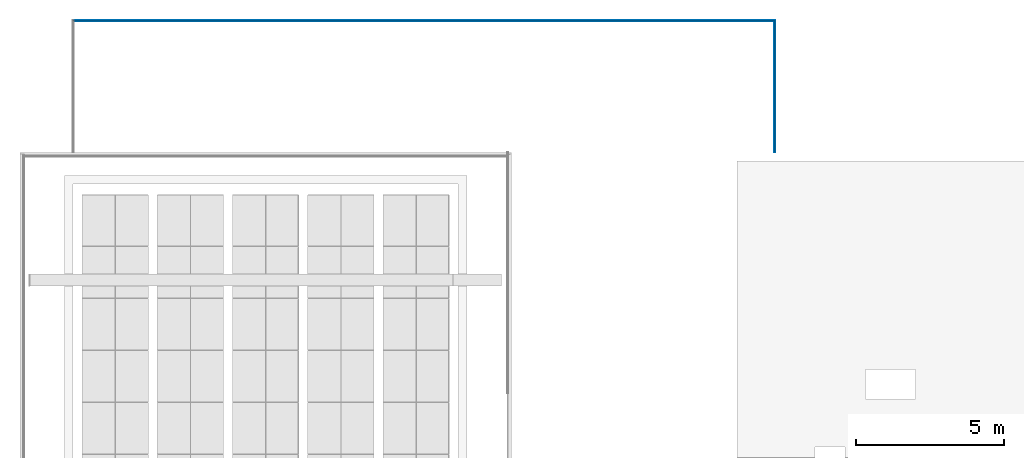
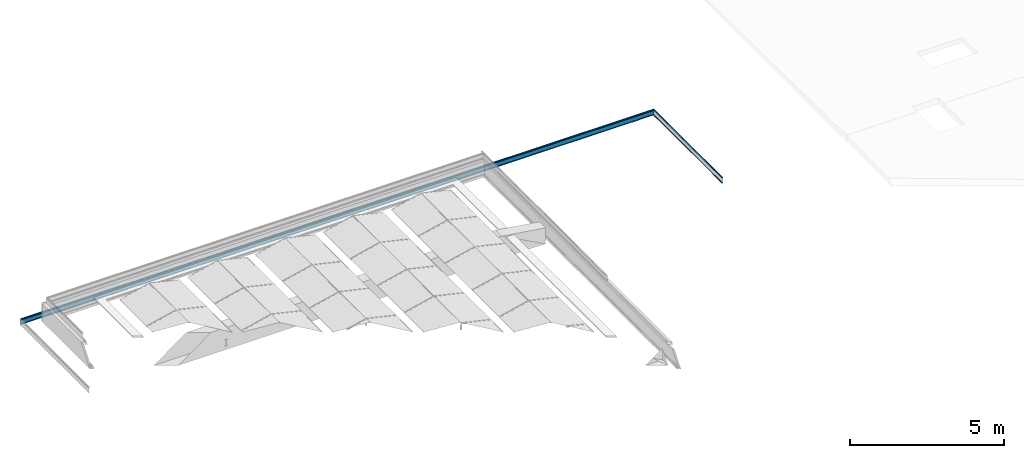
# One storey, part 13 of 25: 5 building element parts, 2 elements without a shape of their own.
"""IFC2X3 building model written with IfcOpenShell, lengths in millimetres."""

from ifc_helpers import new_model, entity, si_unit, converted_unit, derived_unit, money_unit, direction, frame, origin_with_axes, place, context, subcontext, project, spatial, faceted_brep, material, type_object, element, aggregate, save


model = new_model("IFC2X3")

# Units and contexts
model_context = context("Model", 3, precision=0.01, world=origin_with_axes(), true_north=direction((0.0, 1.0)))
body_context = subcontext(model_context, "Body", "Model", "MODEL_VIEW")
ifc_project = project(units=[si_unit("LENGTHUNIT", "METRE", prefix="MILLI"), si_unit("AREAUNIT", "SQUARE_METRE"), si_unit("VOLUMEUNIT", "CUBIC_METRE"), converted_unit("PLANEANGLEUNIT", "DEGREE", entity("IfcPlaneAngleMeasure", 0.0174532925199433), si_unit("PLANEANGLEUNIT", "RADIAN"), dimensions=[0, 0, 0, 0, 0, 0, 0]), money_unit("EUR"), converted_unit("TIMEUNIT", "Year", entity("IfcTimeMeasure", 31557600.0), si_unit("TIMEUNIT", "SECOND"), dimensions=[0, 0, 1, 0, 0, 0, 0]), si_unit("MASSUNIT", "GRAM", prefix="KILO"), si_unit("THERMODYNAMICTEMPERATUREUNIT", "DEGREE_CELSIUS"), si_unit("LUMINOUSINTENSITYUNIT", "LUMEN"), si_unit("ENERGYUNIT", "JOULE", prefix="MEGA"), derived_unit("THERMALCONDUCTANCEUNIT", [(si_unit("POWERUNIT", "WATT"), 1), (si_unit("LENGTHUNIT", "METRE"), -1), (si_unit("THERMODYNAMICTEMPERATUREUNIT", "KELVIN"), -1)]), derived_unit("SPECIFICHEATCAPACITYUNIT", [(si_unit("ENERGYUNIT", "JOULE"), 1), (si_unit("MASSUNIT", "GRAM", prefix="KILO"), -1), (si_unit("THERMODYNAMICTEMPERATUREUNIT", "KELVIN"), -1)]), derived_unit("MASSDENSITYUNIT", [(si_unit("MASSUNIT", "GRAM", prefix="KILO"), 1), (si_unit("VOLUMEUNIT", "CUBIC_METRE"), -1)])], contexts=[model_context])

# Site, building, storey
site_placement = place(None, origin_with_axes())
site = spatial("IfcSite", under=ifc_project, at=site_placement, Name="<site naam>", CompositionType="ELEMENT")
building_placement = place(site_placement, origin_with_axes())
building = spatial("IfcBuilding", under=site, at=building_placement, Name="<Naam gebouw>", CompositionType="ELEMENT")
storey_placement = place(building_placement, frame((0.0, 0.0, 9563.0), z_axis=(0.0, 0.0, 1.0), x_axis=(1.0, 0.0, 0.0)))
storey = spatial("IfcBuildingStorey", under=building, at=storey_placement, Name="03 3e tussenverdieping", CompositionType="ELEMENT", Elevation=9563.0)

# Beam, building element parts
beam_type = type_object("IfcBeamType", Name="Aluminium daktrim 45 x 250", PredefinedType="BEAM")
beam_1_placement = place(storey_placement, frame((13384.93727836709, 20324.99999758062, -5292.062679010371), z_axis=(0.0, 0.0, 1.0), x_axis=(1.0, 0.0, 0.0)))
beam_1 = element("IfcBeam", 1, at=beam_1_placement, inside=storey, type_object=beam_type, Name="47_Balk_Aluminium", ObjectType="BEAM")
ifc_material = material(Name="aluminium")
building_element_part_1_placement = place(beam_1_placement, origin_with_axes())
building_element_part_1 = element("IfcBuildingElementPart", 2, at=building_element_part_1_placement, material=ifc_material, Name="aluminium", context=body_context, shape_type="Brep", body=[
    faceted_brep([(-121.4991945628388, 4478.497355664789, 294.0656451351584), (-122.2068758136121, 4477.789674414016, 293.7721760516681), (-122.2068758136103, 0.0, 293.7721760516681), (-121.4991945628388, 0.0, 294.0656451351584), (-110.9991946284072, 4488.997355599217, 294.0656451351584), (-110.2920878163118, 4489.704462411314, 293.7727519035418), (-109.9991945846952, 4489.997355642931, 293.0656450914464), (-109.9991945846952, 4489.997355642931, 250.065645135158), (-110.2920878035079, 4489.704462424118, 249.3585383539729), (-110.9991945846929, 4488.997355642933, 249.0656451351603), (-111.4991731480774, 4488.497377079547, 249.1996073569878), (-117.6977781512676, 4482.298772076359, 252.7781690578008), (-117.9774779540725, 4482.019072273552, 253.142634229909), (-117.917573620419, 4482.078976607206, 253.598132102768), (-117.5531500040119, 4482.443400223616, 253.8778860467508), (-117.0976432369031, 4482.898906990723, 253.8180493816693), (-113.8976320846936, 4486.098918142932, 251.9718951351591), (-113.8976320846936, 4486.098918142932, 252.5656451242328), (-113.7511854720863, 4486.245364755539, 252.9191985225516), (-113.3976320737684, 4486.59891815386, 253.0656451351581), (-113.1984133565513, 4486.798136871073, 253.0656451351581), (-112.8448599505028, 4487.151690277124, 252.9191985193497), (-112.6984133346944, 4487.298136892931, 252.5656451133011), (-112.6984133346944, 4487.298136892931, 251.2785357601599), (-111.9489165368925, 4488.047633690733, 250.8452329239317), (-111.6116899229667, 4488.384860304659, 250.7856033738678), (-111.3150643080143, 4488.681485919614, 250.9567486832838), (-111.1979101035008, 4488.798640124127, 251.2785442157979), (-111.1984133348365, 4488.798136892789, 281.0656535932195), (-111.3448629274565, 4488.651687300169, 281.4192015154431), (-111.6984133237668, 4488.298136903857, 281.5656451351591), (-112.1984133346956, 4487.79813689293, 281.5656451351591), (-112.5519667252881, 4487.444583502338, 281.4191985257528), (-112.6984133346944, 4487.298136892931, 281.0656451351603), (-112.6984133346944, 4487.298136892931, 279.565645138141), (-112.8448599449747, 4487.151690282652, 279.2120917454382), (-113.1984133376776, 4486.798136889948, 279.0656451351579), (-114.9718508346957, 4485.02469939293, 279.0656451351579), (-120.1773366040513, 4479.819213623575, 275.7461395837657), (-120.3116945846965, 4479.68485564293, 275.4250201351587), (-120.5695070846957, 4479.42704314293, 275.3156451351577), (-120.889819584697, 4479.10673064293, 275.4484576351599), (-121.5401955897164, 4478.456354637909, 275.2060759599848), (-121.694507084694, 4478.302043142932, 274.8976763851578), (-121.9640383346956, 4478.03251189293, 274.8078326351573), (-122.2726320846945, 4477.723918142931, 274.9640826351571), (-128.1981216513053, 4471.79842857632, 274.0660308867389), (-154.6486035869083, 4445.34794664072, 274.0656451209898), (-154.8951277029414, 4445.101422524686, 274.1677553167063), (-154.9972414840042, 4444.999308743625, 274.4142779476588), (-154.8947842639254, 4445.101765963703, 274.6611444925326), (-154.6476320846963, 4445.348918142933, 274.7629107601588), (-149.9991945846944, 4449.997355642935, 275.264863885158), (-149.698413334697, 4450.298136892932, 275.5656451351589), (-147.2999758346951, 4452.696574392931, 275.5656451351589), (-146.9991945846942, 4452.997355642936, 275.264863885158), (-143.9991945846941, 4455.997355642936, 275.264863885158), (-143.6984133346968, 4456.298136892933, 275.5656451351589), (-141.2999758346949, 4458.696574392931, 275.5656451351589), (-140.9991945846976, 4458.997355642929, 275.264863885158), (-137.9991945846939, 4461.997355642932, 275.264863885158), (-137.6984133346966, 4462.29813689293, 275.5656451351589), (-135.2999758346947, 4464.696574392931, 275.5656451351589), (-134.9991945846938, 4464.997355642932, 275.264863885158), (-131.9991945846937, 4467.997355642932, 275.264863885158), (-131.6984133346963, 4468.29813689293, 275.5656451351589), (-129.2999758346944, 4470.696574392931, 275.5656451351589), (-128.9991945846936, 4470.997355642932, 275.264863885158), (-128.1984107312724, 4471.798139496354, 275.264863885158), (-120.0158638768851, 4479.980686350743, 277.1388822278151), (-113.4645529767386, 4486.531997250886, 282.3873432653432), (-112.6841977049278, 4487.3123525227, 282.7641787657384), (-112.1970030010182, 4487.799547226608, 282.7648658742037), (-111.490808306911, 4488.505741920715, 283.0582564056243), (-111.1984133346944, 4488.798136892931, 283.7648638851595), (-111.1984133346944, 4488.798136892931, 292.3664263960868), (-111.3448599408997, 4488.651690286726, 292.719979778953), (-111.6984133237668, 4488.298136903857, 292.8664263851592), (-120.7999758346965, 4479.19657439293, 292.8664263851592), (-121.153529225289, 4478.843021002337, 292.7199797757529), (-121.2999758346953, 4478.69657439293, 292.3664263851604), (-121.2999758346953, 4478.69657439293, 290.6652544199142), (-121.4748532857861, 4478.52169694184, 290.2428198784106), (-121.8971453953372, 4478.099404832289, 290.0675987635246), (-122.3197220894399, 4477.676828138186, 290.2421324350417), (-122.4952867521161, 4477.50126347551, 290.6642818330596), (-122.4991919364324, 4477.497358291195, 293.0640177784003), (-122.4991919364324, 0.0, 293.0640177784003), (-122.4952867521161, 0.0, 290.6642818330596), (-122.3197220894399, 0.0, 290.2421324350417), (-121.8971453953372, 0.0, 290.0675987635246), (-121.4748532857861, 0.0, 290.2428198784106), (-121.2999758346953, 0.0, 290.6652544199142), (-121.2999758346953, 0.0, 292.3664263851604), (-121.153529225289, 0.0, 292.7199797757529), (-120.7999758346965, 0.0, 292.8664263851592), (-111.6984133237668, 0.0, 292.8664263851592), (-111.3448599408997, 0.0, 292.719979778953), (-111.1984133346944, 0.0, 292.3664263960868), (-111.1984133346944, 0.0, 283.7648638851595), (-111.490808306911, 0.0, 283.0582564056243), (-112.1970030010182, 0.0, 282.7648658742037), (-112.6841977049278, 0.0, 282.7641787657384), (-113.4645529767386, 0.0, 282.3873432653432), (-120.0158638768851, 0.0, 277.1388822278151), (-128.1984107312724, 0.0, 275.264863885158), (-128.9991945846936, 0.0, 275.264863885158), (-129.2999758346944, 0.0, 275.5656451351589), (-131.6984133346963, 0.0, 275.5656451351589), (-131.9991945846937, 0.0, 275.264863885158), (-134.9991945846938, 0.0, 275.264863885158), (-135.2999758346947, 0.0, 275.5656451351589), (-137.6984133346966, 0.0, 275.5656451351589), (-137.9991945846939, 0.0, 275.264863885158), (-140.9991945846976, 0.0, 275.264863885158), (-141.2999758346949, 0.0, 275.5656451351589), (-143.6984133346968, 0.0, 275.5656451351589), (-143.9991945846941, 0.0, 275.264863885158), (-146.9991945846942, 0.0, 275.264863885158), (-147.2999758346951, 0.0, 275.5656451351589), (-149.698413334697, 0.0, 275.5656451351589), (-149.9991945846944, 0.0, 275.264863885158), (-154.6476320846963, 0.0, 274.7629107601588), (-154.8947842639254, 0.0, 274.6611444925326), (-154.9972414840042, 0.0, 274.4142779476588), (-154.8951277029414, 0.0, 274.1677553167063), (-154.6486035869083, 0.0, 274.0656451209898), (-128.1981216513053, 0.0, 274.0660308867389), (-122.2726320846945, 0.0, 274.9640826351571), (-121.9640383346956, 0.0, 274.8078326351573), (-121.694507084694, 0.0, 274.8976763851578), (-121.5401955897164, 0.0, 275.2060759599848), (-120.889819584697, 0.0, 275.4484576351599), (-120.5695070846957, 0.0, 275.3156451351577), (-120.3116945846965, 0.0, 275.4250201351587), (-120.1773366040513, 0.0, 275.7461395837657), (-114.9718508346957, 0.0, 279.0656451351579), (-113.1984133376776, 0.0, 279.0656451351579), (-112.8448599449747, 0.0, 279.2120917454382), (-112.6984133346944, 0.0, 279.565645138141), (-112.6984133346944, 0.0, 281.0656451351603), (-112.5519667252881, 0.0, 281.4191985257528), (-112.1984133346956, 0.0, 281.5656451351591), (-111.6984133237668, 0.0, 281.5656451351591), (-111.3448629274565, 0.0, 281.4192015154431), (-111.1984133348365, 0.0, 281.0656535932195), (-111.1979101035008, 0.0, 251.2785442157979), (-111.3150643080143, 0.0, 250.9567486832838), (-111.6116899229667, 0.0, 250.7856033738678), (-111.9489165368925, 0.0, 250.8452329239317), (-112.6984133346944, 0.0, 251.2785357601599), (-112.6984133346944, 0.0, 252.5656451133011), (-112.8448599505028, 0.0, 252.9191985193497), (-113.1984133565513, 0.0, 253.0656451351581), (-113.3976320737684, 0.0, 253.0656451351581), (-113.7511854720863, 0.0, 252.9191985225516), (-113.8976320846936, 0.0, 252.5656451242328), (-113.8976320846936, 0.0, 251.9718951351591), (-117.0976432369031, 0.0, 253.8180493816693), (-117.5531500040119, 0.0, 253.8778860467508), (-117.917573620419, 0.0, 253.598132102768), (-117.9774779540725, 0.0, 253.142634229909), (-117.6977781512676, 0.0, 252.7781690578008), (-111.4991731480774, 0.0, 249.1996073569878), (-110.9991945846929, 0.0, 249.0656451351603), (-110.2920878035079, 0.0, 249.3585383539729), (-109.9991945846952, 0.0, 250.065645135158), (-109.9991945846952, 0.0, 293.0656450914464), (-110.2920878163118, 0.0, 293.7727519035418), (-110.9991946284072, 0.0, 294.0656451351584)], [[[0, 1, 2, 3]], [[0, 4, 5, 6, 7, 8, 9, 10, 11, 12, 13, 14, 15, 16, 17, 18, 19, 20, 21, 22, 23, 24, 25, 26, 27, 28, 29, 30, 31, 32, 33, 34, 35, 36, 37, 38, 39, 40, 41, 42, 43, 44, 45, 46, 47, 48, 49, 50, 51, 52, 53, 54, 55, 56, 57, 58, 59, 60, 61, 62, 63, 64, 65, 66, 67, 68, 69, 70, 71, 72, 73, 74, 75, 76, 77, 78, 79, 80, 81, 82, 83, 84, 85, 86, 1]], [[1, 86, 87, 2]], [[3, 2, 87, 88, 89, 90, 91, 92, 93, 94, 95, 96, 97, 98, 99, 100, 101, 102, 103, 104, 105, 106, 107, 108, 109, 110, 111, 112, 113, 114, 115, 116, 117, 118, 119, 120, 121, 122, 123, 124, 125, 126, 127, 128, 129, 130, 131, 132, 133, 134, 135, 136, 137, 138, 139, 140, 141, 142, 143, 144, 145, 146, 147, 148, 149, 150, 151, 152, 153, 154, 155, 156, 157, 158, 159, 160, 161, 162, 163, 164, 165, 166, 167, 168, 169]], [[4, 0, 3, 169]], [[5, 4, 169, 168]], [[6, 5, 168, 167]], [[7, 6, 167, 166]], [[8, 7, 166, 165]], [[9, 8, 165, 164]], [[10, 9, 164, 163]], [[11, 10, 163, 162]], [[12, 11, 162, 161]], [[13, 12, 161, 160]], [[14, 13, 160, 159]], [[15, 14, 159, 158]], [[16, 15, 158, 157]], [[17, 16, 157, 156]], [[18, 17, 156, 155]], [[19, 18, 155, 154]], [[20, 19, 154, 153]], [[21, 20, 153, 152]], [[22, 21, 152, 151]], [[23, 22, 151, 150]], [[24, 23, 150, 149]], [[25, 24, 149, 148]], [[26, 25, 148, 147]], [[27, 26, 147, 146]], [[28, 27, 146, 145]], [[29, 28, 145, 144]], [[30, 29, 144, 143]], [[31, 30, 143, 142]], [[32, 31, 142, 141]], [[33, 32, 141, 140]], [[34, 33, 140, 139]], [[35, 34, 139, 138]], [[36, 35, 138, 137]], [[37, 36, 137, 136]], [[38, 37, 136, 135]], [[39, 38, 135, 134]], [[40, 39, 134, 133]], [[41, 40, 133, 132]], [[42, 41, 132, 131]], [[43, 42, 131, 130]], [[44, 43, 130, 129]], [[45, 44, 129, 128]], [[46, 45, 128, 127]], [[47, 46, 127, 126]], [[48, 47, 126, 125]], [[49, 48, 125, 124]], [[50, 49, 124, 123]], [[51, 50, 123, 122]], [[52, 51, 122, 121]], [[53, 52, 121, 120]], [[54, 53, 120, 119]], [[55, 54, 119, 118]], [[56, 55, 118, 117]], [[57, 56, 117, 116]], [[58, 57, 116, 115]], [[59, 58, 115, 114]], [[60, 59, 114, 113]], [[61, 60, 113, 112]], [[62, 61, 112, 111]], [[63, 62, 111, 110]], [[64, 63, 110, 109]], [[65, 64, 109, 108]], [[66, 65, 108, 107]], [[67, 66, 107, 106]], [[68, 67, 106, 105]], [[69, 68, 105, 104]], [[70, 69, 104, 103]], [[71, 70, 103, 102]], [[72, 71, 102, 101]], [[73, 72, 101, 100]], [[74, 73, 100, 99]], [[75, 74, 99, 98]], [[76, 75, 98, 97]], [[77, 76, 97, 96]], [[78, 77, 96, 95]], [[79, 78, 95, 94]], [[80, 79, 94, 93]], [[81, 80, 93, 92]], [[82, 81, 92, 91]], [[83, 82, 91, 90]], [[84, 83, 90, 89]], [[85, 84, 89, 88]], [[86, 85, 88, 87]]]),
])
building_element_part_2_placement = place(beam_1_placement, origin_with_axes())
building_element_part_2 = element("IfcBuildingElementPart", 3, at=building_element_part_2_placement, material=ifc_material, Name="aluminium", context=body_context, shape_type="Brep", body=[
    faceted_brep([(-112.0058939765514, 4487.990656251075, 49.5656303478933), (-112.0058939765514, 4487.990656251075, 69.56564503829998), (-112.0058939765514, 0.0, 69.56564503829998), (-112.0058939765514, 0.0, 49.5656303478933), (-113.2058874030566, 4486.790662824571, 49.5656303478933), (-113.2058874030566, 4486.790662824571, 68.55872432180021), (-145.0058874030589, 4454.990662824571, 74.16592230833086), (-145.0058874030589, 4454.990662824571, 89.56564503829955), (-143.8058874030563, 4456.190662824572, 89.56564503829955), (-143.8058874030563, 4456.190662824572, 75.17284186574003), (-143.8058874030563, 0.0, 75.17284186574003), (-143.8058874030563, 0.0, 89.56564503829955), (-145.0058874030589, 0.0, 89.56564503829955), (-145.0058874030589, 0.0, 74.16592230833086), (-113.2058874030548, 0.0, 68.55872432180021), (-113.2058874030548, 0.0, 49.5656303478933)], [[[0, 1, 2, 3]], [[0, 4, 5, 6, 7, 8, 9, 1]], [[1, 9, 10, 2]], [[3, 2, 10, 11, 12, 13, 14, 15]], [[4, 0, 3, 15]], [[5, 4, 15, 14]], [[6, 5, 14, 13]], [[7, 6, 13, 12]], [[8, 7, 12, 11]], [[9, 8, 11, 10]]]),
])
aggregate(beam_1, [building_element_part_1, building_element_part_2])

beam_2_placement = place(storey_placement, frame((13384.93727836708, 24924.99654780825, -5292.000000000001), z_axis=(0.0, 0.0, 1.0), x_axis=(0.0, 1.0, 0.0)))
beam_2 = element("IfcBeam", 4, at=beam_2_placement, inside=storey, type_object=beam_type, Name="47_Balk_Aluminium", ObjectType="BEAM")
building_element_part_3_placement = place(beam_2_placement, origin_with_axes())
building_element_part_3 = element("IfcBuildingElementPart", 5, at=building_element_part_3_placement, material=ifc_material, Name="aluminium", context=body_context, shape_type="Brep", body=[
    faceted_brep([(-121.499194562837, 23917.51345279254, 294.0656451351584), (-122.2068758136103, 23916.80577154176, 293.7721760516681), (-122.2068758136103, 122.2068758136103, 293.7721760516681), (-121.499194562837, 121.4991945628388, 294.0656451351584), (-110.9991946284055, 23928.01345272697, 294.0656451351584), (-110.2920878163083, 23928.72055953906, 293.7727519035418), (-109.9991945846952, 23929.01345277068, 293.0656450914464), (-109.9991945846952, 23929.01345277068, 250.065645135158), (-110.2920878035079, 23928.72055955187, 249.3585383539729), (-110.9991945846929, 23928.01345277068, 249.0656451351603), (-111.4991731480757, 23927.5134742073, 249.1996073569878), (-117.6977781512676, 23921.31486920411, 252.7781690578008), (-117.9774779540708, 23921.0351694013, 253.142634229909), (-117.9175736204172, 23921.09507373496, 253.598132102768), (-117.5531500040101, 23921.45949735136, 253.8778860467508), (-117.0976432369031, 23921.91500411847, 253.8180493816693), (-113.8976320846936, 23925.11501527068, 251.9718951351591), (-113.8976320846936, 23925.11501527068, 252.5656451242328), (-113.7511854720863, 23925.26146188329, 252.9191985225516), (-113.3976320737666, 23925.61501528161, 253.0656451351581), (-113.1984133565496, 23925.81423399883, 253.0656451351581), (-112.8448599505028, 23926.16778740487, 252.9191985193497), (-112.6984133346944, 23926.31423402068, 252.5656451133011), (-112.6984133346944, 23926.31423402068, 251.2785357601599), (-111.9489165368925, 23927.06373081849, 250.8452329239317), (-111.6116899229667, 23927.40095743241, 250.7856033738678), (-111.3150643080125, 23927.69758304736, 250.9567486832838), (-111.197910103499, 23927.81473725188, 251.2785442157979), (-111.1984133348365, 23927.81423402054, 281.0656535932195), (-111.3448629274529, 23927.66778442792, 281.4192015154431), (-111.6984133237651, 23927.3142340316, 281.5656451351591), (-112.1984133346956, 23926.81423402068, 281.5656451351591), (-112.5519667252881, 23926.46068063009, 281.4191985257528), (-112.6984133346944, 23926.31423402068, 281.0656451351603), (-112.6984133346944, 23926.31423402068, 279.565645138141), (-112.8448599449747, 23926.1677874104, 279.2120917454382), (-113.1984133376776, 23925.8142340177, 279.0656451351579), (-114.9718508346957, 23924.04079652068, 279.0656451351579), (-120.1773366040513, 23918.83531075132, 275.7461395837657), (-120.3116945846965, 23918.70095277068, 275.4250201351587), (-120.5695070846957, 23918.44314027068, 275.3156451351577), (-120.889819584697, 23918.12282777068, 275.4484576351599), (-121.5401955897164, 23917.47245176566, 275.2060759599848), (-121.694507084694, 23917.31814027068, 274.8976763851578), (-121.9640383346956, 23917.04860902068, 274.8078326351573), (-122.2726320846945, 23916.74001527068, 274.9640826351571), (-128.1981216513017, 23910.81452570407, 274.0660308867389), (-154.6486035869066, 23884.36404376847, 274.0656451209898), (-154.8951277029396, 23884.11751965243, 274.1677553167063), (-154.9972414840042, 23884.01540587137, 274.4142779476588), (-154.8947842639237, 23884.11786309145, 274.6611444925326), (-154.6476320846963, 23884.36501527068, 274.7629107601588), (-149.9991945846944, 23889.01345277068, 275.264863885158), (-149.698413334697, 23889.31423402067, 275.5656451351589), (-147.2999758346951, 23891.71267152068, 275.5656451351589), (-146.9991945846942, 23892.01345277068, 275.264863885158), (-143.9991945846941, 23895.01345277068, 275.264863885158), (-143.6984133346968, 23895.31423402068, 275.5656451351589), (-141.2999758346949, 23897.71267152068, 275.5656451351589), (-140.9991945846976, 23898.01345277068, 275.264863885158), (-137.9991945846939, 23901.01345277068, 275.264863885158), (-137.6984133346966, 23901.31423402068, 275.5656451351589), (-135.2999758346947, 23903.71267152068, 275.5656451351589), (-134.9991945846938, 23904.01345277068, 275.264863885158), (-131.9991945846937, 23907.01345277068, 275.264863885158), (-131.6984133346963, 23907.31423402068, 275.5656451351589), (-129.2999758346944, 23909.71267152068, 275.5656451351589), (-128.9991945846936, 23910.01345277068, 275.264863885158), (-128.1984107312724, 23910.8142366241, 275.264863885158), (-120.0158638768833, 23918.99678347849, 277.1388822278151), (-113.4645529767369, 23925.54809437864, 282.3873432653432), (-112.684197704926, 23926.32844965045, 282.7641787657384), (-112.1970030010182, 23926.81564435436, 282.7648658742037), (-111.490808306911, 23927.52183904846, 283.0582564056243), (-111.1984133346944, 23927.81423402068, 283.7648638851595), (-111.1984133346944, 23927.81423402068, 292.3664263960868), (-111.3448599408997, 23927.66778741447, 292.719979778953), (-111.6984133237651, 23927.3142340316, 292.8664263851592), (-120.7999758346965, 23918.21267152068, 292.8664263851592), (-121.153529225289, 23917.85911813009, 292.7199797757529), (-121.2999758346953, 23917.71267152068, 292.3664263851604), (-121.2999758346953, 23917.71267152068, 290.6652544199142), (-121.4748532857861, 23917.53779406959, 290.2428198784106), (-121.8971453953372, 23917.11550196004, 290.0675987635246), (-122.3197220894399, 23916.69292526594, 290.2421324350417), (-122.4952867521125, 23916.51736060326, 290.6642818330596), (-122.4991919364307, 23916.51345541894, 293.0640177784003), (-122.4991919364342, 122.4991919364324, 293.0640177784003), (-122.4952867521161, 122.4952867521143, 290.6642818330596), (-122.3197220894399, 122.3197220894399, 290.2421324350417), (-121.8971453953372, 121.8971453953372, 290.0675987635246), (-121.4748532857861, 121.4748532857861, 290.2428198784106), (-121.2999758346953, 121.2999758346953, 290.6652544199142), (-121.2999758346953, 121.2999758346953, 292.3664263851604), (-121.153529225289, 121.153529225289, 292.7199797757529), (-120.7999758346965, 120.7999758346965, 292.8664263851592), (-111.6984133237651, 111.6984133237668, 292.8664263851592), (-111.3448599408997, 111.3448599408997, 292.719979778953), (-111.1984133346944, 111.1984133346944, 292.3664263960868), (-111.1984133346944, 111.1984133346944, 283.7648638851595), (-111.490808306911, 111.490808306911, 283.0582564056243), (-112.1970030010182, 112.1970030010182, 282.7648658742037), (-112.6841977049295, 112.6841977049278, 282.7641787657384), (-113.4645529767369, 113.4645529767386, 282.3873432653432), (-120.0158638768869, 120.0158638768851, 277.1388822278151), (-128.1984107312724, 128.1984107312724, 275.264863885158), (-128.9991945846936, 128.9991945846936, 275.264863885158), (-129.2999758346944, 129.2999758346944, 275.5656451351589), (-131.6984133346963, 131.6984133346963, 275.5656451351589), (-131.9991945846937, 131.9991945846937, 275.264863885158), (-134.9991945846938, 134.9991945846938, 275.264863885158), (-135.2999758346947, 135.2999758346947, 275.5656451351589), (-137.6984133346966, 137.6984133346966, 275.5656451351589), (-137.9991945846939, 137.9991945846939, 275.264863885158), (-140.9991945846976, 140.9991945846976, 275.264863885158), (-141.2999758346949, 141.2999758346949, 275.5656451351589), (-143.6984133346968, 143.6984133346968, 275.5656451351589), (-143.9991945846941, 143.9991945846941, 275.264863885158), (-146.9991945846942, 146.9991945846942, 275.264863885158), (-147.2999758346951, 147.2999758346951, 275.5656451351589), (-149.698413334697, 149.698413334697, 275.5656451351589), (-149.9991945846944, 149.9991945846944, 275.264863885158), (-154.6476320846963, 154.6476320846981, 274.7629107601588), (-154.8947842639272, 154.8947842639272, 274.6611444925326), (-154.9972414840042, 154.9972414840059, 274.4142779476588), (-154.8951277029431, 154.8951277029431, 274.1677553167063), (-154.6486035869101, 154.6486035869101, 274.0656451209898), (-128.1981216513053, 128.1981216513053, 274.0660308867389), (-122.2726320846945, 122.2726320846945, 274.9640826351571), (-121.9640383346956, 121.9640383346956, 274.8078326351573), (-121.694507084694, 121.694507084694, 274.8976763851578), (-121.5401955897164, 121.5401955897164, 275.2060759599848), (-120.889819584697, 120.889819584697, 275.4484576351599), (-120.5695070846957, 120.5695070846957, 275.3156451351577), (-120.3116945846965, 120.3116945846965, 275.4250201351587), (-120.1773366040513, 120.1773366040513, 275.7461395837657), (-114.9718508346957, 114.9718508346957, 279.0656451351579), (-113.1984133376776, 113.1984133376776, 279.0656451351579), (-112.8448599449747, 112.8448599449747, 279.2120917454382), (-112.6984133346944, 112.6984133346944, 279.565645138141), (-112.6984133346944, 112.6984133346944, 281.0656451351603), (-112.5519667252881, 112.5519667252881, 281.4191985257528), (-112.1984133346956, 112.1984133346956, 281.5656451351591), (-111.6984133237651, 111.6984133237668, 281.5656451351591), (-111.3448629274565, 111.3448629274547, 281.4192015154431), (-111.1984133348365, 111.1984133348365, 281.0656535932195), (-111.197910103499, 111.197910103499, 251.2785442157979), (-111.3150643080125, 111.3150643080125, 250.9567486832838), (-111.6116899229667, 111.6116899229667, 250.7856033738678), (-111.9489165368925, 111.9489165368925, 250.8452329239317), (-112.6984133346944, 112.6984133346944, 251.2785357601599), (-112.6984133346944, 112.6984133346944, 252.5656451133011), (-112.8448599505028, 112.8448599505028, 252.9191985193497), (-113.1984133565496, 113.1984133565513, 253.0656451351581), (-113.3976320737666, 113.3976320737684, 253.0656451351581), (-113.7511854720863, 113.7511854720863, 252.9191985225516), (-113.8976320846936, 113.8976320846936, 252.5656451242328), (-113.8976320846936, 113.8976320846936, 251.9718951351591), (-117.0976432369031, 117.0976432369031, 253.8180493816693), (-117.5531500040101, 117.5531500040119, 253.8778860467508), (-117.9175736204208, 117.917573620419, 253.598132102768), (-117.9774779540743, 117.9774779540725, 253.142634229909), (-117.6977781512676, 117.6977781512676, 252.7781690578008), (-111.4991731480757, 111.4991731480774, 249.1996073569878), (-110.9991945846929, 110.9991945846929, 249.0656451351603), (-110.2920878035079, 110.2920878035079, 249.3585383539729), (-109.9991945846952, 109.9991945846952, 250.065645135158), (-109.9991945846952, 109.9991945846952, 293.0656450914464), (-110.2920878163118, 110.2920878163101, 293.7727519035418), (-110.9991946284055, 110.9991946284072, 294.0656451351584)], [[[0, 1, 2, 3]], [[0, 4, 5, 6, 7, 8, 9, 10, 11, 12, 13, 14, 15, 16, 17, 18, 19, 20, 21, 22, 23, 24, 25, 26, 27, 28, 29, 30, 31, 32, 33, 34, 35, 36, 37, 38, 39, 40, 41, 42, 43, 44, 45, 46, 47, 48, 49, 50, 51, 52, 53, 54, 55, 56, 57, 58, 59, 60, 61, 62, 63, 64, 65, 66, 67, 68, 69, 70, 71, 72, 73, 74, 75, 76, 77, 78, 79, 80, 81, 82, 83, 84, 85, 86, 1]], [[1, 86, 87, 2]], [[3, 2, 87, 88, 89, 90, 91, 92, 93, 94, 95, 96, 97, 98, 99, 100, 101, 102, 103, 104, 105, 106, 107, 108, 109, 110, 111, 112, 113, 114, 115, 116, 117, 118, 119, 120, 121, 122, 123, 124, 125, 126, 127, 128, 129, 130, 131, 132, 133, 134, 135, 136, 137, 138, 139, 140, 141, 142, 143, 144, 145, 146, 147, 148, 149, 150, 151, 152, 153, 154, 155, 156, 157, 158, 159, 160, 161, 162, 163, 164, 165, 166, 167, 168, 169]], [[4, 0, 3, 169]], [[5, 4, 169, 168]], [[6, 5, 168, 167]], [[7, 6, 167, 166]], [[8, 7, 166, 165]], [[9, 8, 165, 164]], [[10, 9, 164, 163]], [[11, 10, 163, 162]], [[12, 11, 162, 161]], [[13, 12, 161, 160]], [[14, 13, 160, 159]], [[15, 14, 159, 158]], [[16, 15, 158, 157]], [[17, 16, 157, 156]], [[18, 17, 156, 155]], [[19, 18, 155, 154]], [[20, 19, 154, 153]], [[21, 20, 153, 152]], [[22, 21, 152, 151]], [[23, 22, 151, 150]], [[24, 23, 150, 149]], [[25, 24, 149, 148]], [[26, 25, 148, 147]], [[27, 26, 147, 146]], [[28, 27, 146, 145]], [[29, 28, 145, 144]], [[30, 29, 144, 143]], [[31, 30, 143, 142]], [[32, 31, 142, 141]], [[33, 32, 141, 140]], [[34, 33, 140, 139]], [[35, 34, 139, 138]], [[36, 35, 138, 137]], [[37, 36, 137, 136]], [[38, 37, 136, 135]], [[39, 38, 135, 134]], [[40, 39, 134, 133]], [[41, 40, 133, 132]], [[42, 41, 132, 131]], [[43, 42, 131, 130]], [[44, 43, 130, 129]], [[45, 44, 129, 128]], [[46, 45, 128, 127]], [[47, 46, 127, 126]], [[48, 47, 126, 125]], [[49, 48, 125, 124]], [[50, 49, 124, 123]], [[51, 50, 123, 122]], [[52, 51, 122, 121]], [[53, 52, 121, 120]], [[54, 53, 120, 119]], [[55, 54, 119, 118]], [[56, 55, 118, 117]], [[57, 56, 117, 116]], [[58, 57, 116, 115]], [[59, 58, 115, 114]], [[60, 59, 114, 113]], [[61, 60, 113, 112]], [[62, 61, 112, 111]], [[63, 62, 111, 110]], [[64, 63, 110, 109]], [[65, 64, 109, 108]], [[66, 65, 108, 107]], [[67, 66, 107, 106]], [[68, 67, 106, 105]], [[69, 68, 105, 104]], [[70, 69, 104, 103]], [[71, 70, 103, 102]], [[72, 71, 102, 101]], [[73, 72, 101, 100]], [[74, 73, 100, 99]], [[75, 74, 99, 98]], [[76, 75, 98, 97]], [[77, 76, 97, 96]], [[78, 77, 96, 95]], [[79, 78, 95, 94]], [[80, 79, 94, 93]], [[81, 80, 93, 92]], [[82, 81, 92, 91]], [[83, 82, 91, 90]], [[84, 83, 90, 89]], [[85, 84, 89, 88]], [[86, 85, 88, 87]]]),
])
building_element_part_4_placement = place(beam_2_placement, origin_with_axes())
building_element_part_4 = element("IfcBuildingElementPart", 6, at=building_element_part_4_placement, material=ifc_material, Name="aluminium", context=body_context, shape_type="Brep", body=[
    faceted_brep([(-111.1979101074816, 23927.8147372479, 237.7678423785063), (-111.1979101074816, 111.1979101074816, 237.7678423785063), (-143.0058874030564, 143.0058874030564, 241.8720983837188), (-143.0058874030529, 23896.00675995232, 241.8720983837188), (-111.1979101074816, 23927.8147372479, 45.7656366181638), (-111.1979101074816, 111.1979101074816, 45.7656366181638), (-141.8058874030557, 141.8058874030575, 243.1686919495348), (-141.8058874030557, 141.8058874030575, 253.0654661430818), (-143.0058874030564, 143.0058874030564, 253.0654661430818), (-114.0058874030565, 114.0058874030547, 45.7656366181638), (-114.0058874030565, 114.0058874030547, 61.56563661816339), (-115.2058874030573, 115.2058874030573, 61.56563661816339), (-115.2058874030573, 115.2058874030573, 44.56563661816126), (-110.0058874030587, 110.0058874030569, 44.56563661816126), (-110.0058874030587, 110.0058874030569, 239.0654661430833), (-143.0058874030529, 23896.00675995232, 253.0654661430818), (-114.005887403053, 23925.00675995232, 45.7656366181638), (-141.8058874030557, 23897.20675995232, 253.0654661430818), (-141.8058874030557, 23897.20675995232, 243.1686919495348), (-110.0058874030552, 23929.00675995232, 239.0654661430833), (-110.0058874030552, 23929.00675995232, 44.56563661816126), (-115.2058874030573, 23923.80675995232, 44.56563661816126), (-115.2058874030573, 23923.80675995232, 61.56563661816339), (-114.005887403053, 23925.00675995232, 61.56563661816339)], [[[0, 1, 2, 3]], [[4, 5, 1, 0]], [[6, 7, 8, 2, 1, 5, 9, 10, 11, 12, 13, 14]], [[3, 2, 8, 15]], [[16, 4, 0, 3, 15, 17, 18, 19, 20, 21, 22, 23]], [[16, 9, 5, 4]], [[17, 7, 6, 18]], [[15, 8, 7, 17]], [[23, 10, 9, 16]], [[22, 11, 10, 23]], [[21, 12, 11, 22]], [[20, 13, 12, 21]], [[19, 14, 13, 20]], [[18, 6, 14, 19]]]),
])
building_element_part_5_placement = place(beam_2_placement, origin_with_axes())
building_element_part_5 = element("IfcBuildingElementPart", 7, at=building_element_part_5_placement, material=ifc_material, Name="aluminium", context=body_context, shape_type="Brep", body=[
    faceted_brep([(-112.0058939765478, 23927.00675337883, 49.5656303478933), (-112.0058939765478, 23927.00675337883, 69.56564503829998), (-112.0058939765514, 112.0058939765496, 69.56564503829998), (-112.0058939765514, 112.0058939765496, 49.5656303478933), (-113.2058874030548, 23925.80675995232, 49.5656303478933), (-113.2058874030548, 23925.80675995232, 68.55872432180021), (-145.0058874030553, 23894.00675995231, 74.16592230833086), (-145.0058874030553, 23894.00675995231, 89.56564503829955), (-143.8058874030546, 23895.20675995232, 89.56564503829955), (-143.8058874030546, 23895.20675995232, 75.17284186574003), (-143.8058874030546, 143.8058874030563, 75.17284186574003), (-143.8058874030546, 143.8058874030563, 89.56564503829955), (-145.0058874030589, 145.0058874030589, 89.56564503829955), (-145.0058874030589, 145.0058874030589, 74.16592230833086), (-113.2058874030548, 113.2058874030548, 68.55872432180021), (-113.2058874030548, 113.2058874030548, 49.5656303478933)], [[[0, 1, 2, 3]], [[0, 4, 5, 6, 7, 8, 9, 1]], [[1, 9, 10, 2]], [[3, 2, 10, 11, 12, 13, 14, 15]], [[4, 0, 3, 15]], [[5, 4, 15, 14]], [[6, 5, 14, 13]], [[7, 6, 13, 12]], [[8, 7, 12, 11]], [[9, 8, 11, 10]]]),
])
aggregate(beam_2, [building_element_part_3, building_element_part_4, building_element_part_5])

save(model, "model.ifc")
